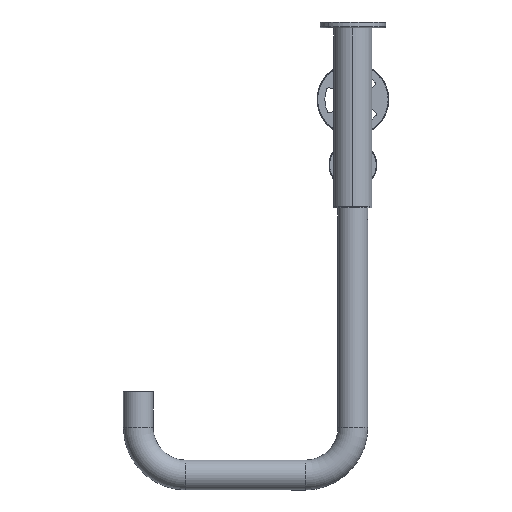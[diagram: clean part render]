
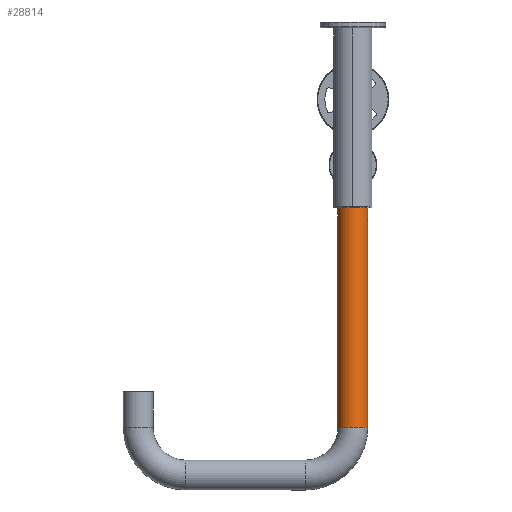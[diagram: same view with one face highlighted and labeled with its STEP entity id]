
A CAD part, left-side view. The second image highlights one B-rep face of the part: STEP entity #28814.
In plain terms, the highlighted cylindrical face has radius 12.5 mm (diameter 25 mm), a partial arc.
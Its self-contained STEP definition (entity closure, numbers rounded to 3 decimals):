
#1161 = EDGE_CURVE ( 'NONE', #8210, #36863, #50918, .T. ) ;
#2817 = CARTESIAN_POINT ( 'NONE',  ( -12.5, 0., 184. ) ) ;
#4630 = CARTESIAN_POINT ( 'NONE',  ( -12.423, -1.387, 7.917 ) ) ;
#5745 = CARTESIAN_POINT ( 'NONE',  ( -12.5, 0., 184. ) ) ;
#5806 = VERTEX_POINT ( 'NONE', #54070 ) ;
#6599 = DIRECTION ( 'NONE',  ( 0., 0., -1. ) ) ;
#6671 = VERTEX_POINT ( 'NONE', #26774 ) ;
#7021 = EDGE_CURVE ( 'NONE', #32570, #8210, #69101, .T. ) ;
#8210 = VERTEX_POINT ( 'NONE', #41696 ) ;
#9619 = CARTESIAN_POINT ( 'NONE',  ( -12.5, -0.137, 7.4 ) ) ;
#9971 = CARTESIAN_POINT ( 'NONE',  ( -12.334, -2.033, 8.955 ) ) ;
#10341 = CARTESIAN_POINT ( 'NONE',  ( -12.466, -0.932, 11.387 ) ) ;
#11592 = AXIS2_PLACEMENT_3D ( 'NONE', #52394, #63103, #14212 ) ;
#11711 = ORIENTED_EDGE ( 'NONE', *, *, #7021, .T. ) ;
#12222 = CARTESIAN_POINT ( 'NONE',  ( 0., 0., 0. ) ) ;
#14212 = DIRECTION ( 'NONE',  ( -1., 0., 0. ) ) ;
#14626 = CARTESIAN_POINT ( 'NONE',  ( -12.489, -0.546, 7.468 ) ) ;
#14984 = CARTESIAN_POINT ( 'NONE',  ( -12.498, -0.276, 11.586 ) ) ;
#16528 = CARTESIAN_POINT ( 'NONE',  ( 0., 0., 184. ) ) ;
#17264 = EDGE_CURVE ( 'NONE', #46829, #5806, #28762, .T. ) ;
#20126 = CARTESIAN_POINT ( 'NONE',  ( 12.5, 0., 184. ) ) ;
#20677 = EDGE_CURVE ( 'NONE', #36863, #6671, #36363, .T. ) ;
#20698 = CARTESIAN_POINT ( 'NONE',  ( -12.388, -1.67, 8.219 ) ) ;
#20903 = CARTESIAN_POINT ( 'NONE',  ( -12.5, 0., 184. ) ) ;
#26054 = CARTESIAN_POINT ( 'NONE',  ( -12.5, 0., 7.4 ) ) ;
#26415 = CARTESIAN_POINT ( 'NONE',  ( -12.498, -0.277, 7.414 ) ) ;
#26560 = DIRECTION ( 'NONE',  ( 0., 0., 1. ) ) ;
#26753 = CARTESIAN_POINT ( 'NONE',  ( -12.5, -0.139, 11.6 ) ) ;
#26774 = CARTESIAN_POINT ( 'NONE',  ( -12.5, 0., 0. ) ) ;
#28762 = LINE ( 'NONE', #55513, #60739 ) ;
#28814 = ADVANCED_FACE ( 'NONE', ( #30280 ), #52034, .T. ) ;
#29963 = ORIENTED_EDGE ( 'NONE', *, *, #42342, .T. ) ;
#30280 = FACE_OUTER_BOUND ( 'NONE', #50824, .T. ) ;
#31052 = CARTESIAN_POINT ( 'NONE',  ( -12.34, -1.993, 8.824 ) ) ;
#31763 = CARTESIAN_POINT ( 'NONE',  ( -12.322, -2.1, 9.364 ) ) ;
#32120 = CARTESIAN_POINT ( 'NONE',  ( -12.357, -1.887, 8.569 ) ) ;
#32570 = VERTEX_POINT ( 'NONE', #5745 ) ;
#33994 = DIRECTION ( 'NONE',  ( 0., 0., 1. ) ) ;
#34614 = VECTOR ( 'NONE', #41022, 1000. ) ;
#36363 = LINE ( 'NONE', #2817, #34614 ) ;
#36749 = CARTESIAN_POINT ( 'NONE',  ( -12.4, -1.583, 8.113 ) ) ;
#36863 = VERTEX_POINT ( 'NONE', #42285 ) ;
#37105 = CARTESIAN_POINT ( 'NONE',  ( -12.367, -1.822, 8.446 ) ) ;
#37458 = CARTESIAN_POINT ( 'NONE',  ( -12.365, -1.835, 10.557 ) ) ;
#38141 = AXIS2_PLACEMENT_3D ( 'NONE', #16528, #26560, #48321 ) ;
#38879 = VECTOR ( 'NONE', #48034, 1000. ) ;
#41022 = DIRECTION ( 'NONE',  ( 0., 0., -1. ) ) ;
#41696 = CARTESIAN_POINT ( 'NONE',  ( -12.5, 0., 11.6 ) ) ;
#41740 = CARTESIAN_POINT ( 'NONE',  ( -12.456, -1.053, 11.322 ) ) ;
#41790 = DIRECTION ( 'NONE',  ( 1., 0., 0. ) ) ;
#42285 = CARTESIAN_POINT ( 'NONE',  ( -12.5, 0., 7.4 ) ) ;
#42342 = EDGE_CURVE ( 'NONE', #6671, #5806, #58678, .T. ) ;
#42463 = CARTESIAN_POINT ( 'NONE',  ( -12.325, -2.086, 9.224 ) ) ;
#45699 = ORIENTED_EDGE ( 'NONE', *, *, #20677, .T. ) ;
#46829 = VERTEX_POINT ( 'NONE', #20126 ) ;
#47097 = CARTESIAN_POINT ( 'NONE',  ( -12.435, -1.281, 11.17 ) ) ;
#48034 = DIRECTION ( 'NONE',  ( 0., 0., -1. ) ) ;
#48321 = DIRECTION ( 'NONE',  ( 1., 0., 0. ) ) ;
#50824 = EDGE_LOOP ( 'NONE', ( #64868, #64225, #11711, #62419, #45699, #29963 ) ) ;
#50918 = B_SPLINE_CURVE_WITH_KNOTS ( 'NONE', 3,
 ( #63882, #26753, #14984, #53166, #53542, #10341, #41740, #47097, #58865, #64942, #37458, #59228, #69608, #31763, #42463, #9971, #31052, #32120, #37105, #20698, #36749, #4630, #70290, #63515, #64579, #52814, #14626, #26415, #9619, #26054 ),
 .UNSPECIFIED., .F., .F.,
 ( 4, 2, 2, 2, 2, 2, 2, 2, 2, 2, 2, 2, 2, 2, 4 ),
 ( 0., 0., 0.001, 0.001, 0.002, 0.002, 0.003, 0.004, 0.004, 0.005, 0.005, 0.005, 0.006, 0.006, 0.007 ),
 .UNSPECIFIED. ) ;
#52034 = CYLINDRICAL_SURFACE ( 'NONE', #11592, 12.5 ) ;
#52394 = CARTESIAN_POINT ( 'NONE',  ( 0., 0., 184. ) ) ;
#52814 = CARTESIAN_POINT ( 'NONE',  ( -12.482, -0.677, 7.507 ) ) ;
#53166 = CARTESIAN_POINT ( 'NONE',  ( -12.489, -0.544, 11.533 ) ) ;
#53542 = CARTESIAN_POINT ( 'NONE',  ( -12.482, -0.678, 11.492 ) ) ;
#54070 = CARTESIAN_POINT ( 'NONE',  ( 12.5, 0., 0. ) ) ;
#55513 = CARTESIAN_POINT ( 'NONE',  ( 12.5, 0., 184. ) ) ;
#57553 = AXIS2_PLACEMENT_3D ( 'NONE', #12222, #33994, #41790 ) ;
#58678 = CIRCLE ( 'NONE', #57553, 12.5 ) ;
#58865 = CARTESIAN_POINT ( 'NONE',  ( -12.423, -1.389, 11.081 ) ) ;
#59228 = CARTESIAN_POINT ( 'NONE',  ( -12.332, -2.045, 10.052 ) ) ;
#60739 = VECTOR ( 'NONE', #6599, 1000. ) ;
#61018 = EDGE_CURVE ( 'NONE', #32570, #46829, #68917, .T. ) ;
#62419 = ORIENTED_EDGE ( 'NONE', *, *, #1161, .T. ) ;
#63103 = DIRECTION ( 'NONE',  ( 0., 0., -1. ) ) ;
#63515 = CARTESIAN_POINT ( 'NONE',  ( -12.456, -1.054, 7.679 ) ) ;
#63882 = CARTESIAN_POINT ( 'NONE',  ( -12.5, 0., 11.6 ) ) ;
#64225 = ORIENTED_EDGE ( 'NONE', *, *, #61018, .F. ) ;
#64579 = CARTESIAN_POINT ( 'NONE',  ( -12.466, -0.931, 7.613 ) ) ;
#64868 = ORIENTED_EDGE ( 'NONE', *, *, #17264, .F. ) ;
#64942 = CARTESIAN_POINT ( 'NONE',  ( -12.388, -1.679, 10.791 ) ) ;
#68917 = CIRCLE ( 'NONE', #38141, 12.5 ) ;
#69101 = LINE ( 'NONE', #20903, #38879 ) ;
#69608 = CARTESIAN_POINT ( 'NONE',  ( -12.322, -2.1, 9.775 ) ) ;
#70290 = CARTESIAN_POINT ( 'NONE',  ( -12.435, -1.281, 7.831 ) ) ;
